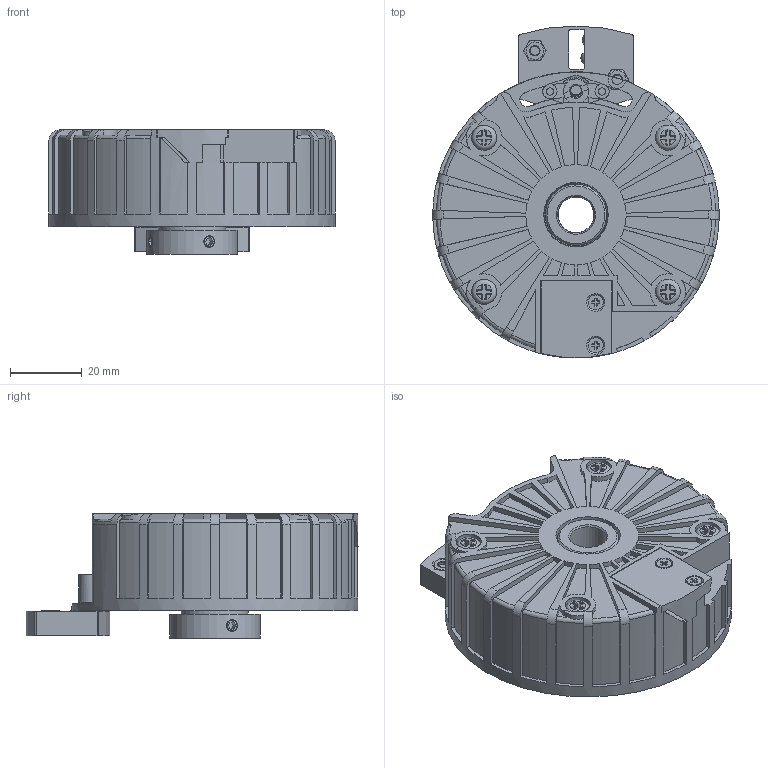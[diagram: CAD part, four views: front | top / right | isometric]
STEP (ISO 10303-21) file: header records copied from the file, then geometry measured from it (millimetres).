
FILE_DESCRIPTION( ( 'Unknown' ), '1' );
FILE_NAME( 'X:/I - Italia/UT - Ufficio Tecnico/Documenti Tecnico/Schede prodotti/InDesign/Assiemi SolidEdge per cataloghi/STEP ASSIEMI/EH_EF80P_albero_10.stp', 'Unknown', ( 'Unknown' ), ( 'Unknown' ), 'PSStep 15.0.49', 'Unknown', ' ' );
FILE_SCHEMA( ( 'AUTOMOTIVE_DESIGN { 1 0 10303 214 1 1 1 1 }' ) );
Length unit declared in the file: millimetre
Products named in the file (1): 41320104
Bounding box: 80 x 92.77 x 34.7 mm (x, y, z)
Volume: 54412.7 mm3; surface area: 48923.9 mm2
Topology: 1 solids, 21 shells, 1380 faces, 3490 edges, 2197 vertices
Faces by surface type: plane 932, cylinder 278, cone 45, torus 45, sphere 34, extrusion 26, bspline 20
Full cylindrical faces by diameter (mm): 2 x11, 2.1 x2, 2.5 x8, 3 x6, 3.2 x2, 3.242 x4, 3.3 x1, 4 x1, 4.2 x2, 5.6 x2, 6 x2, 7 x6, 10 x1, 10.3 x1, 16.8 x1, 17 x1, 17.1 x2, 17.3 x1, 18 x1, 18.8 x1, 19.3 x1, 19.4 x3, 19.5 x3, 20.4 x1, 23 x3, 23.5 x3, 23.6 x3, 24 x3, 25.3 x1, 28 x1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
Entity records: 65597 total; most frequent: CARTESIAN_POINT 22683, DIRECTION 6523, ORIENTED_EDGE 6334, EDGE_CURVE 3167, AXIS2_PLACEMENT_3D 2184, VECTOR 2155, LINE 2129, VERTEX_POINT 2096
